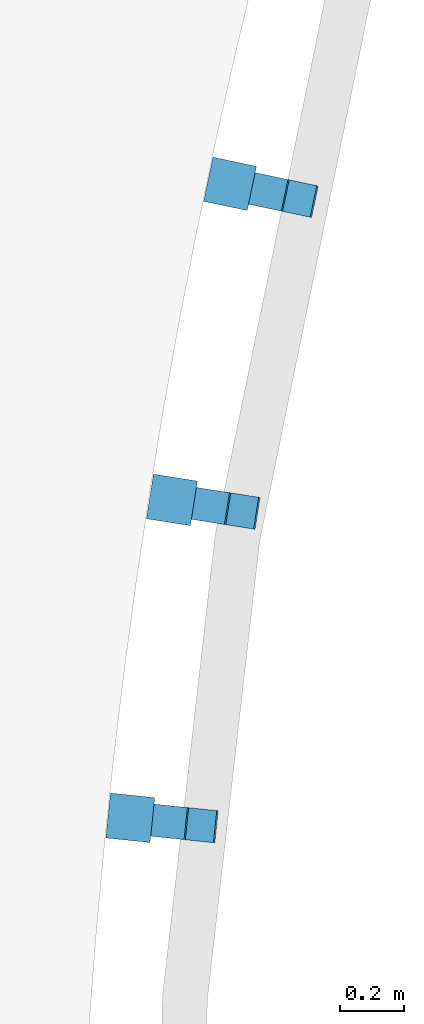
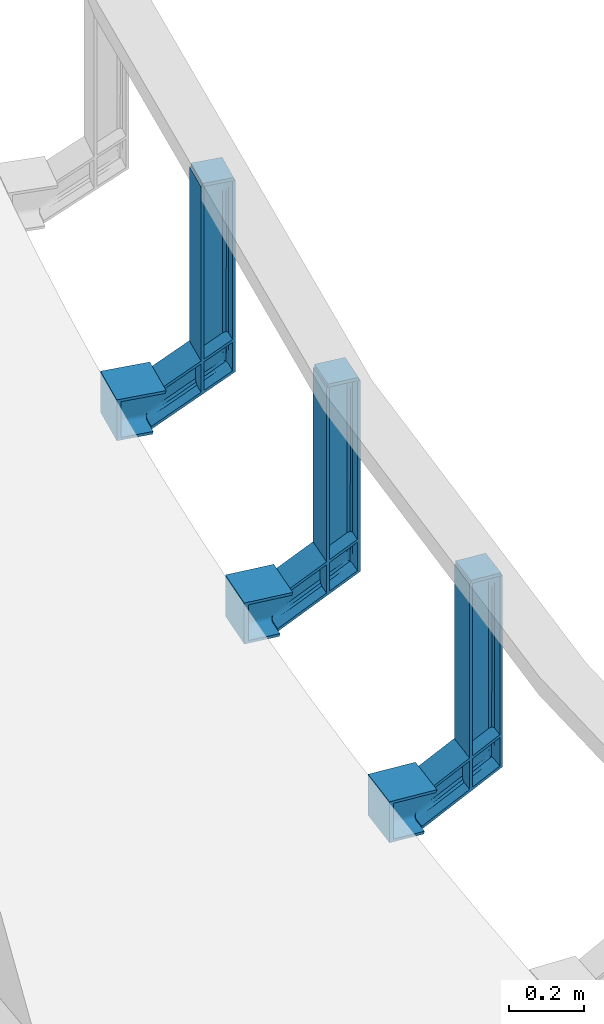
# One storey, part 43 of 68: 3 beams.
"""IFC2X3 building model written with IfcOpenShell, lengths in millimetres."""

from ifc_helpers import new_model, entity, si_unit, converted_unit, derived_unit, direction, frame, origin, place, context, subcontext, project, spatial, faceted_brep, source, transform, mapped, material, type_object, type_shapes, element, save


model = new_model("IFC2X3")

# Units and contexts
model_context = context("Model", 3, precision=0.01, world=origin(), true_north=direction((6.12303176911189e-17, 1.0)))
body_context = subcontext(model_context, "Body", "Model", "MODEL_VIEW")
ifc_project = project(units=[si_unit("LENGTHUNIT", "METRE", prefix="MILLI"), si_unit("AREAUNIT", "SQUARE_METRE", prefix="MILLI"), si_unit("VOLUMEUNIT", "CUBIC_METRE"), converted_unit("PLANEANGLEUNIT", "DEGREE", entity("IfcRatioMeasure", 0.0174532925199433), si_unit("PLANEANGLEUNIT", "RADIAN"), dimensions=[0, 0, 0, 0, 0, 0, 0]), si_unit("MASSUNIT", "GRAM", prefix="KILO"), derived_unit("MASSDENSITYUNIT", [(si_unit("MASSUNIT", "GRAM", prefix="KILO"), 1), (si_unit("LENGTHUNIT", "METRE"), -3)]), derived_unit("MOMENTOFINERTIAUNIT", [(si_unit("LENGTHUNIT", "METRE"), 4)]), si_unit("TIMEUNIT", "SECOND"), si_unit("FREQUENCYUNIT", "HERTZ"), si_unit("THERMODYNAMICTEMPERATUREUNIT", "DEGREE_CELSIUS"), derived_unit("THERMALTRANSMITTANCEUNIT", [(si_unit("MASSUNIT", "GRAM", prefix="KILO"), 1), (si_unit("THERMODYNAMICTEMPERATUREUNIT", "KELVIN"), -1), (si_unit("TIMEUNIT", "SECOND"), -3)]), derived_unit("VOLUMETRICFLOWRATEUNIT", [(si_unit("LENGTHUNIT", "METRE"), 3), (si_unit("TIMEUNIT", "SECOND"), -1)]), si_unit("ELECTRICCURRENTUNIT", "AMPERE"), si_unit("ELECTRICVOLTAGEUNIT", "VOLT"), si_unit("POWERUNIT", "WATT"), si_unit("FORCEUNIT", "NEWTON", prefix="KILO"), si_unit("ILLUMINANCEUNIT", "LUX"), si_unit("LUMINOUSFLUXUNIT", "LUMEN"), si_unit("LUMINOUSINTENSITYUNIT", "CANDELA"), derived_unit("USERDEFINED", [(si_unit("MASSUNIT", "GRAM", prefix="KILO"), -1), (si_unit("LENGTHUNIT", "METRE"), -2), (si_unit("TIMEUNIT", "SECOND"), 3), (si_unit("LUMINOUSFLUXUNIT", "LUMEN"), 1)]), derived_unit("LINEARVELOCITYUNIT", [(si_unit("LENGTHUNIT", "METRE"), 1), (si_unit("TIMEUNIT", "SECOND"), -1)]), si_unit("PRESSUREUNIT", "PASCAL"), derived_unit("USERDEFINED", [(si_unit("LENGTHUNIT", "METRE"), -2), (si_unit("MASSUNIT", "GRAM", prefix="KILO"), 1), (si_unit("TIMEUNIT", "SECOND"), -2)]), derived_unit("LINEARFORCEUNIT", [(si_unit("MASSUNIT", "GRAM", prefix="KILO"), 1), (si_unit("LENGTHUNIT", "METRE"), 1), (si_unit("TIMEUNIT", "SECOND"), -2), (si_unit("LENGTHUNIT", "METRE"), -1)]), derived_unit("PLANARFORCEUNIT", [(si_unit("MASSUNIT", "GRAM", prefix="KILO"), 1), (si_unit("LENGTHUNIT", "METRE"), 1), (si_unit("TIMEUNIT", "SECOND"), -2), (si_unit("LENGTHUNIT", "METRE"), -2)])], contexts=[model_context])

# Site, building, storey
site_placement = place(None, origin())
site = spatial("IfcSite", under=ifc_project, at=site_placement, Name="Theater aan de Parade", CompositionType="ELEMENT")
building_placement = place(site_placement, origin())
building = spatial("IfcBuilding", under=site, at=building_placement, Name="Theater aan de Parade", CompositionType="ELEMENT")
storey_placement = place(building_placement, frame((0.0, 0.0, 8750.0)))
storey = spatial("IfcBuildingStorey", under=building, at=storey_placement, Name="02 tweede verdieping", CompositionType="ELEMENT", Elevation=8750.0)

# Beams
ifc_material = material(Name="00_PBT_MAT_staal_S355")
beam_type = type_object("IfcBeamType", Name="28_PBT_SF_staal_baluster balkon:baluster HEA100", PredefinedType="BEAM", material=ifc_material)
shared_shape = source(origin(), body_context, "Body", "Brep", [
    faceted_brep([(50.0, 43.537813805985, 625.0), (50.0, 43.537813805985, 635.0), (50.0, -44.0, 635.0), (50.0, -44.0, 625.0), (-50.0, 43.537813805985, 625.0), (-50.0, -44.0, 625.0), (-50.0, -44.0, 635.0), (-50.0, 43.537813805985, 635.0)], [[[0, 1, 2, 3]], [[4, 5, 6, 7]], [[3, 5, 4, 0]], [[2, 6, 5, 3]], [[1, 7, 6, 2]], [[0, 4, 7, 1]]]),
    faceted_brep([(70.0, -278.0, -133.0), (70.0, -278.0, 0.0), (70.0, -290.0, 0.0), (70.0, -290.0, -133.0), (-70.0, -278.0, -133.0), (-70.0, -290.0, -133.0), (-70.0, -290.0, 0.0), (-70.0, -278.0, 0.0)], [[[0, 1, 2, 3]], [[4, 5, 6, 7]], [[3, 5, 4, 0]], [[2, 6, 5, 3]], [[1, 7, 6, 2]], [[0, 4, 7, 1]]]),
    faceted_brep([(70.0, -278.0, -133.0), (70.0, -278.0, -124.5), (14.7499999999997, -278.0, -124.5), (11.6441714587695, -278.0, -124.091109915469), (8.74999999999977, -278.0, -122.892304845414), (6.26471862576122, -278.0, -120.985281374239), (4.35769515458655, -278.0, -118.5), (3.15889008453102, -278.0, -115.60582854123), (2.74999999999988, -278.0, -112.5), (2.74999999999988, -278.0, -20.5000000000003), (3.15889008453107, -278.0, -17.39417145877), (4.35769515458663, -278.0, -14.5000000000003), (6.26471862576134, -278.0, -12.0147186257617), (8.74999999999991, -278.0, -10.107695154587), (11.6441714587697, -278.0, -8.90889008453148), (14.7499999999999, -278.0, -8.50000000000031), (70.0, -278.0, -8.50000000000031), (70.0, -278.0, 0.0), (-70.0, -278.0, 0.0), (-70.0, -278.0, -8.50000000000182), (-14.7499999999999, -278.0, -8.50000000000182), (-11.6441714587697, -278.0, -8.90889008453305), (-8.74999999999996, -278.0, -10.1076951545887), (-6.26471862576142, -278.0, -12.0147186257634), (-4.35769515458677, -278.0, -14.500000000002), (-3.15889008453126, -278.0, -17.3941714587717), (-2.75000000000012, -278.0, -20.5000000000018), (-2.75000000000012, -278.0, -112.500000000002), (-3.15889008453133, -278.0, -115.605828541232), (-4.3576951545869, -278.0, -118.500000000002), (-6.26471862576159, -278.0, -120.98528137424), (-8.75000000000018, -278.0, -122.892304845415), (-11.6441714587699, -278.0, -124.091109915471), (-14.7500000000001, -278.0, -124.500000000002), (-70.0, -278.0, -124.500000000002), (-70.0, -278.0, -133.0), (70.0, -154.37480362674, -8.50000000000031), (70.0, -151.923048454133, 0.0), (70.0, -190.285805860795, -133.0), (70.0, -187.834050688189, -124.5), (14.7499999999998, -214.852904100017, -8.50000000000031), (14.7499999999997, -154.37480362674, -8.50000000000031), (-70.0, -154.37480362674, -8.50000000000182), (-14.7500000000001, -154.37480362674, -8.50000000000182), (-14.7500000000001, -214.852905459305, -8.50000000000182), (6.43965673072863, -216.327371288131, -11.8433150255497), (2.74999999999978, -217.521904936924, -20.5000000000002), (12.079748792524, -154.461585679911, -8.8008650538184), (9.5433951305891, -154.717580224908, -9.68837358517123), (5.36802221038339, -155.678018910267, -13.0181223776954), (7.26812237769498, -155.129950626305, -11.1180222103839), (2.74999999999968, -157.83610504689, -20.5000000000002), (3.05086505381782, -157.065893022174, -17.8297487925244), (3.9383735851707, -156.334302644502, -15.2933951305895), (2.74999999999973, -184.372749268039, -112.5), (3.93837358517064, -185.874551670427, -117.706604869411), (3.05086505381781, -185.142961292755, -115.170251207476), (5.36802221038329, -186.530835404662, -119.981877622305), (7.26812237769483, -187.078903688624, -121.881977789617), (9.54339513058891, -187.491274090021, -123.311626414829), (12.0797487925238, -187.747268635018, -124.199134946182), (14.7499999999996, -187.834050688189, -124.5), (-14.7500000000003, -187.83405068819, -124.500000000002), (-70.0, -187.83405068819, -124.500000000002), (-70.0, -190.285805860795, -133.0), (-70.0, -151.923048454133, 0.0), (-9.54339513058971, -187.491274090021, -123.311626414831), (-12.0797487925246, -187.747268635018, -124.199134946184), (-7.2681223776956, -187.078903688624, -121.881977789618), (-5.36802221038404, -186.530835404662, -119.981877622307), (-3.93837358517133, -185.874551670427, -117.706604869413), (-3.05086505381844, -185.142961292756, -115.170251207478), (-2.75000000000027, -184.37274926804, -112.500000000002), (-2.75000000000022, -217.521899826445, -20.500000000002), (-2.75000000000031, -157.83610504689, -20.500000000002), (-6.43965718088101, -216.327373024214, -11.8433145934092), (-3.05086505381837, -157.065893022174, -17.8297487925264), (-3.93837358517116, -156.334302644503, -15.2933951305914), (-7.2681223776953, -155.129950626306, -11.1180222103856), (-5.36802221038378, -155.678018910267, -13.0181223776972), (-12.0797487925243, -154.461585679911, -8.80086505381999), (-9.54339513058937, -154.717580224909, -9.68837358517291)], [[[0, 1, 2, 3, 4, 5, 6, 7, 8, 9, 10, 11, 12, 13, 14, 15, 16, 17, 18, 19, 20, 21, 22, 23, 24, 25, 26, 27, 28, 29, 30, 31, 32, 33, 34, 35]], [[36, 37, 17, 16]], [[38, 39, 1, 0]], [[36, 16, 15, 40, 41]], [[19, 42, 43, 44, 20]], [[13, 45, 14]], [[12, 45, 13]], [[46, 45, 11]], [[47, 41, 40]], [[14, 40, 15]], [[45, 12, 11]], [[48, 47, 40]], [[49, 50, 45]], [[10, 9, 46]], [[40, 45, 48]], [[11, 10, 46]], [[46, 51, 52]], [[53, 46, 52]], [[46, 53, 45]], [[45, 53, 49]], [[45, 50, 48]], [[14, 45, 40]], [[54, 51, 46, 9, 8]], [[7, 6, 55]], [[8, 7, 56]], [[56, 54, 8]], [[57, 55, 6]], [[56, 7, 55]], [[6, 5, 57]], [[58, 5, 4]], [[59, 4, 3]], [[60, 3, 2]], [[59, 58, 4]], [[61, 60, 2]], [[59, 3, 60]], [[5, 58, 57]], [[39, 61, 2, 1]], [[62, 63, 34, 33]], [[38, 0, 35, 64]], [[64, 35, 34, 63]], [[42, 19, 18, 65]], [[32, 31, 66]], [[33, 32, 67]], [[67, 62, 33]], [[68, 66, 31]], [[67, 32, 66]], [[31, 30, 68]], [[69, 30, 29]], [[70, 29, 28]], [[71, 28, 27]], [[70, 69, 29]], [[72, 71, 27]], [[70, 28, 71]], [[30, 69, 68]], [[72, 27, 26, 73, 74]], [[25, 24, 73]], [[24, 23, 75]], [[75, 22, 21]], [[76, 74, 73]], [[75, 23, 22]], [[73, 77, 76]], [[78, 79, 75]], [[44, 80, 81]], [[73, 75, 77]], [[25, 73, 26]], [[21, 44, 75]], [[21, 20, 44]], [[43, 80, 44]], [[44, 81, 75]], [[78, 75, 81]], [[75, 79, 77]], [[73, 24, 75]], [[37, 65, 18, 17]], [[39, 38, 64, 63, 62, 67, 66, 68, 69, 70, 71, 72, 74, 76, 77, 79, 78, 81, 80, 43, 42, 65, 37, 36, 41, 47, 48, 50, 49, 53, 52, 51, 54, 56, 55, 57, 58, 59, 60, 61]]]),
    faceted_brep([(50.0, 48.0, 106.188021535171), (50.0, 48.0, 115.425625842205), (50.0, -151.923048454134, 0.0), (50.0, -155.119944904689, -11.0833333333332), (50.0, 48.0, 4.57437415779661), (50.0, 48.0, 13.8119784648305), (50.0, -187.08890941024, -121.916666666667), (50.0, -190.285805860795, -133.0), (14.4999999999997, -155.119944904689, -11.0833333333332), (14.4999999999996, -56.7511342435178, 45.7099259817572), (14.4999999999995, -4.37557443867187, 75.9489695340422), (14.4999999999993, 48.0, 106.188021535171), (-50.0, -155.119944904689, -11.0833333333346), (-50.0, 48.0, 106.188021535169), (-14.5000000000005, 48.0, 106.188021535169), (-14.5000000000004, -4.37556718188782, 75.9489737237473), (-14.5000000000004, -56.7511343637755, 45.7099259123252), (-14.5000000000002, -155.119944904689, -11.0833333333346), (9.9077988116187, -155.484968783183, -12.348836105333), (6.13940978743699, -85.6560198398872, 25.1051305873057), (12.1589161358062, -155.212086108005, -11.4027780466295), (2.49999999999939, -4.37556820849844, 62.0925666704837), (2.49999999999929, 48.0, 92.3316150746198), (2.80086505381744, 48.0, 95.4149555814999), (6.04197655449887, -10.2229142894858, 68.5459327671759), (2.49999999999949, -55.1641531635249, 32.769763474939), (2.73057663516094, -158.979764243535, -24.4649567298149), (2.49999999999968, -159.915289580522, -27.7083333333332), (2.49999999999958, -107.539721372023, 2.53071507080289), (7.83315720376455, -155.92810620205, -13.8851510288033), (11.8297487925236, 48.0, 105.840612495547), (4.52236465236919, -157.25113882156, -18.4719782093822), (3.41344560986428, -158.0801906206, -21.3462212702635), (5.11802221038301, 48.0, 100.970943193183), (7.01812237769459, 48.0, 103.164989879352), (3.68837358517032, 48.0, 98.3436845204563), (9.29339513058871, 48.0, 104.815805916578), (6.01471862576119, -156.524468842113, -15.9526830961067), (2.49999999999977, -182.293564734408, -105.291666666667), (2.49999999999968, -129.917998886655, -75.052619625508), (2.49999999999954, -56.7511354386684, -32.8097113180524), (2.49999999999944, -4.3755695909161, -2.57066427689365), (2.49999999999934, 48.0, 27.6683849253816), (6.01471862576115, -185.684385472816, -117.047316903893), (6.30956465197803, -103.743785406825, -70.0679088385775), (4.52236465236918, -184.957715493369, -114.528021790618), (7.83315720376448, -186.280748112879, -119.114848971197), (9.90779881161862, -186.723885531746, -120.651163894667), (14.4999999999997, -134.713341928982, -91.677618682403), (12.1589161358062, -186.996768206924, -121.597221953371), (14.4999999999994, -4.37556748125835, -16.4270695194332), (5.87838992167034, -26.389988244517, -24.9186641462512), (14.4999999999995, -69.5444547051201, -54.0523441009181), (5.11802221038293, 48.0, 19.0290568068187), (3.4134456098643, -184.128663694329, -111.653778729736), (2.80086505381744, 48.0, 24.5850444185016), (3.68837358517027, 48.0, 21.6563154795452), (14.4999999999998, -187.08890941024, -121.916666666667), (7.01812237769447, 48.0, 16.8350101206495), (9.29339513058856, 48.0, 15.1841940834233), (2.73057663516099, -183.229090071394, -108.535043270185), (11.8297487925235, 48.0, 14.1593875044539), (14.4999999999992, 48.0, 13.8119784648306), (-50.0, -187.088909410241, -121.916666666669), (-14.5000000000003, -187.088909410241, -121.916666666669), (-14.5000000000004, -134.713341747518, -91.6776185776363), (-14.5000000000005, -69.544456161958, -54.0523449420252), (-14.5000000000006, -4.37556766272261, -16.427069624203), (-14.5000000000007, 48.0, 13.8119784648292), (-50.0, 48.0, 13.8119784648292), (-50.0, -190.285805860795, -133.0), (-50.0, 48.0, 4.57437415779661), (-50.0, -151.923048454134, 0.0), (-50.0, 48.0, 115.425625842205), (-6.30956482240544, -103.743788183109, -70.0679106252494), (-4.52236465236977, -184.95771549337, -114.52802179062), (-3.41344560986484, -184.128663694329, -111.653778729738), (-2.50000000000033, -129.917995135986, -75.0526174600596), (-5.87838988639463, -26.3899865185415, -24.9186631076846), (-7.01812237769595, 48.0, 16.835010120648), (-9.29339513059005, 48.0, 15.1841940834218), (-6.01471862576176, -185.684385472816, -117.047316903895), (-7.8331572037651, -186.28074811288, -119.114848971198), (-11.829748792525, 48.0, 14.1593875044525), (-2.50000000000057, -4.37556959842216, -2.57066428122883), (-5.11802221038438, 48.0, 19.0290568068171), (-2.7305766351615, -183.229090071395, -108.535043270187), (-2.50000000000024, -182.293564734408, -105.291666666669), (-9.90779881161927, -186.723885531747, -120.651163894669), (-12.1589161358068, -186.996768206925, -121.597221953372), (-2.50000000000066, 48.0, 27.6683849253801), (-2.80086505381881, 48.0, 24.5850444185), (-2.50000000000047, -56.7511295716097, -32.809707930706), (-3.68837358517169, 48.0, 21.6563154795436), (-2.50000000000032, -159.915289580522, -27.708333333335), (-2.50000000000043, -107.539724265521, 2.53071340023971), (-2.50000000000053, -55.1641511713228, 32.7697646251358), (-2.50000000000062, -4.37556531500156, 62.0925683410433), (-2.50000000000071, 48.0, 92.3316150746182), (-2.73057663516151, -158.979764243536, -24.464956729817), (-11.8297487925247, 48.0, 105.840612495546), (-7.83315720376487, -155.92810620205, -13.885151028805), (-6.13940988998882, -85.6560228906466, 25.1051289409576), (-6.01471862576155, -156.524468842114, -15.9526830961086), (-6.04197656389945, -10.2229155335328, 68.5459320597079), (-7.0181223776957, 48.0, 103.16498987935), (-5.11802221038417, 48.0, 100.970943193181), (-9.90779881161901, -155.484968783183, -12.3488361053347), (-4.52236465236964, -157.25113882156, -18.4719782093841), (-3.68837358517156, 48.0, 98.3436845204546), (-2.80086505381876, 48.0, 95.4149555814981), (-12.1589161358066, -155.212086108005, -11.402778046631), (-3.41344560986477, -158.080190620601, -21.3462212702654), (-9.29339513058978, 48.0, 104.815805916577)], [[[0, 1, 2, 3]], [[4, 5, 6, 7]], [[0, 3, 8, 9, 10, 11]], [[12, 13, 14, 15, 16, 17]], [[18, 19, 20]], [[21, 22, 23]], [[24, 25, 21]], [[26, 27, 28]], [[19, 18, 29]], [[25, 19, 28]], [[9, 24, 10]], [[20, 9, 8]], [[19, 9, 20]], [[19, 24, 9]], [[25, 24, 19]], [[30, 11, 10]], [[28, 31, 32]], [[24, 33, 34]], [[33, 24, 35]], [[35, 24, 21]], [[36, 24, 34]], [[28, 32, 26]], [[31, 19, 37]], [[30, 10, 36]], [[31, 28, 19]], [[35, 21, 23]], [[36, 10, 24]], [[37, 19, 29]], [[27, 38, 39, 40, 41, 42, 22, 21, 25, 28]], [[43, 44, 45]], [[46, 47, 48]], [[48, 47, 49]], [[50, 51, 52]], [[53, 41, 51]], [[54, 45, 44]], [[55, 42, 41]], [[55, 41, 56]], [[49, 57, 48]], [[40, 39, 44]], [[58, 53, 51]], [[43, 46, 44]], [[51, 59, 58]], [[39, 54, 44]], [[54, 39, 60]], [[40, 44, 51]], [[61, 50, 62]], [[41, 40, 51]], [[44, 48, 52]], [[44, 46, 48]], [[56, 41, 53]], [[39, 38, 60]], [[59, 50, 61]], [[51, 44, 52]], [[51, 50, 59]], [[5, 62, 50, 52, 48, 57, 6]], [[63, 64, 65, 66, 67, 68, 69]], [[4, 7, 70, 71]], [[71, 70, 63, 69]], [[13, 12, 72, 73]], [[66, 65, 74]], [[75, 76, 74]], [[77, 74, 76]], [[78, 79, 80]], [[81, 74, 82]], [[83, 67, 80]], [[78, 84, 85]], [[86, 87, 77]], [[88, 82, 65]], [[88, 65, 89]], [[84, 90, 91]], [[66, 74, 78]], [[78, 80, 67]], [[92, 78, 74]], [[83, 68, 67]], [[84, 78, 92]], [[93, 84, 91]], [[93, 85, 84]], [[74, 65, 82]], [[78, 85, 79]], [[64, 89, 65]], [[74, 81, 75]], [[74, 77, 92]], [[86, 77, 76]], [[66, 78, 67]], [[94, 95, 96, 97, 98, 90, 84, 92, 77, 87]], [[94, 99, 95]], [[15, 14, 100]], [[101, 102, 103]], [[104, 105, 106]], [[107, 102, 101]], [[103, 102, 108]], [[16, 104, 102]], [[104, 96, 102]], [[102, 95, 108]], [[109, 110, 97]], [[107, 111, 102]], [[96, 104, 97]], [[109, 104, 106]], [[112, 95, 99]], [[16, 15, 104]], [[95, 112, 108]], [[113, 15, 100]], [[16, 102, 111]], [[97, 104, 109]], [[102, 96, 95]], [[113, 104, 15]], [[111, 17, 16]], [[105, 104, 113]], [[110, 98, 97]], [[1, 73, 72, 2]], [[5, 4, 71, 69, 68, 83, 80, 79, 85, 93, 91, 90, 98, 110, 109, 106, 105, 113, 100, 14, 13, 73, 1, 0, 11, 30, 36, 34, 33, 35, 23, 22, 42, 55, 56, 53, 58, 59, 61, 62]], [[3, 2, 72, 12, 17, 111, 107, 101, 103, 108, 112, 99, 94, 87, 86, 76, 75, 81, 82, 88, 89, 64, 63, 70, 7, 6, 57, 49, 47, 46, 43, 45, 54, 60, 38, 27, 26, 32, 31, 37, 29, 18, 20, 8]]]),
    faceted_brep([(50.0, -48.0, 625.0), (50.0, -40.0, 625.0), (14.4999999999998, -40.0, 625.0), (11.3941714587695, -39.5911099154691, 625.0), (8.4999999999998, -38.3923048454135, 625.0), (6.01471862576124, -36.4852813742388, 625.0), (4.10769515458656, -34.0, 625.0), (2.90889008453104, -31.1058285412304, 625.0), (2.49999999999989, -28.0, 625.0), (2.49999999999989, 28.0, 625.0), (2.90889008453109, 31.10582854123, 625.0), (4.10769515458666, 34.0, 625.0), (6.01471862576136, 36.4852813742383, 625.0), (8.49999999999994, 38.392304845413, 625.0), (11.3941714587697, 39.5911099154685, 625.0), (14.4999999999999, 40.0, 625.0), (50.0, 40.0, 625.0), (50.0, 48.0, 625.0), (-50.0, 48.0, 625.0), (-50.0, 40.0, 625.0), (-14.4999999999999, 40.0, 625.0), (-11.3941714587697, 39.5911099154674, 625.0), (-8.49999999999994, 38.3923048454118, 625.0), (-6.01471862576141, 36.4852813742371, 625.0), (-4.10769515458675, 34.0, 625.0), (-2.90889008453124, 31.1058285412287, 625.0), (-2.50000000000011, 28.0, 625.0), (-2.5000000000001, -28.0, 625.0), (-2.90889008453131, -31.1058285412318, 625.0), (-4.10769515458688, -34.0, 625.0), (-6.01471862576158, -36.4852813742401, 625.0), (-8.50000000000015, -38.3923048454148, 625.0), (-11.3941714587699, -39.5911099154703, 625.0), (-14.5000000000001, -40.0, 625.0), (-50.0, -40.0, 625.0), (-50.0, -48.0, 625.0), (50.0, 48.0, 165.0), (50.0, 40.0, -0.0444279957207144), (50.0, 48.0, 4.57437415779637), (50.0, -40.0, -46.2324495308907), (50.0, -48.0, -50.8512516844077), (14.4999999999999, 40.0, 564.521909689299), (14.4999999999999, 40.0, 468.738898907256), (14.4999999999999, 40.0, 390.608336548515), (14.4999999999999, 40.0, 312.477797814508), (14.4999999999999, 40.0, 234.347235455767), (14.4999999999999, 40.0, 156.216673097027), (14.4999999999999, 40.0, 60.4336623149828), (14.4999999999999, 40.0, -0.0444279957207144), (-50.0, 40.0, -0.0444279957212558), (-14.4999999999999, 40.0, -0.0444279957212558), (-14.4999999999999, 40.0, 60.4336769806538), (-14.4999999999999, 40.0, 156.21667900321), (-14.5, 40.0, 234.34724221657), (-14.5, 40.0, 312.477786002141), (-14.5, 40.0, 390.608329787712), (-14.5, 40.0, 468.738893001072), (-14.5, 40.0, 564.521895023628), (6.01471822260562, 36.4852809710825, 534.282851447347), (2.49999999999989, 28.0, 504.043808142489), (2.49999999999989, 28.0, 429.969876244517), (6.38111782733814, 36.8365011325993, 422.595542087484), (9.29339513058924, 38.8116264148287, -0.730535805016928), (5.87838991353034, 36.3467262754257, 83.7445110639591), (7.01812237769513, 37.3819777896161, -1.55594382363), (2.49999999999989, 28.0, 564.521899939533), (5.11802221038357, 35.4818776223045, -2.65296716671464), (11.8297487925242, 39.6991349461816, -0.21813251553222), (6.03175640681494, 36.5022850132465, 273.412504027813), (5.33717277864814, 35.7487158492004, 157.721305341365), (2.49999999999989, 28.0, 113.983560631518), (2.49999999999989, 28.0, 53.5054688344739), (2.49999999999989, 28.0, -6.97263122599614), (2.80086505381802, 30.6702512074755, -5.43096097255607), (6.45584074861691, 36.9045775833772, 351.543056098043), (3.68837358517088, 33.2066048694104, -3.96659650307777), (2.49999999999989, 28.0, 234.939752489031), (2.49999999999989, 28.0, 174.461652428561), (2.49999999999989, 28.0, 332.454810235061), (2.49999999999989, -28.0, 564.521918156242), (2.49999999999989, -28.0, 504.043820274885), (2.49999999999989, -28.0, 443.565722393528), (2.49999999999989, -28.0, 383.08762451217), (2.49999999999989, -28.0, 277.489656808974), (2.49999999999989, -28.0, 171.891689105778), (2.49999999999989, -28.0, 81.6519494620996), (2.49999999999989, -28.0, 21.1738515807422), (2.49999999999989, -28.0, -39.3042463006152), (14.4999999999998, -40.0, 564.521903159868), (14.4999999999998, -40.0, 457.191883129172), (6.01471890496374, -36.4852816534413, 534.282850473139), (14.4999999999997, -40.0, 14.24565628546), (5.87838987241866, -36.3467262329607, 51.4128968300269), (14.4999999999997, -40.0, 74.723753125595), (14.4999999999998, -40.0, 182.053764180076), (7.12980766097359, -37.469966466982, 128.3887480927), (14.4999999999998, -40.0, 373.287829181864), (14.4999999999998, -40.0, 289.383775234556), (5.68142979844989, -36.138354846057, 331.33579860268), (6.48410362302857, -36.9300282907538, 264.631830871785), (5.11802221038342, -35.481877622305, -43.6239103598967), (3.68837358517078, -33.2066048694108, -42.3102810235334), (14.4999999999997, -40.0, -46.2324495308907), (11.8297487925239, -39.6991349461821, -46.058745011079), (9.29339513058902, -38.8116264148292, -45.5463417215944), (7.01812237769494, -37.3819777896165, -44.7209337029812), (5.85986411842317, -36.3275477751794, 197.731198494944), (5.34384824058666, -35.7566026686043, 460.437179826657), (2.80086505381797, -30.6702512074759, -40.8459165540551), (6.59968170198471, -37.0324399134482, 396.193688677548), (-50.0, -40.0, -46.2324495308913), (-14.5000000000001, -40.0, 564.521911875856), (-14.5000000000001, -40.0, 457.191887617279), (-14.5000000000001, -40.0, 373.287826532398), (-14.5000000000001, -40.0, 289.383775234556), (-14.5000000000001, -40.0, 205.479723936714), (-14.5000000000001, -40.0, 121.575662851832), (-14.5000000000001, -40.0, 14.2456483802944), (-14.5000000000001, -40.0, -46.2324495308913), (-50.0, -48.0, -50.8512516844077), (-50.0, 48.0, 165.0), (-50.0, 48.0, 4.57437415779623), (-6.01471845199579, -36.4852812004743, 534.282853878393), (-2.5000000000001, -28.0, 504.043796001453), (-5.34384807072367, -35.7566024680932, 460.437182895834), (-2.5000000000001, -28.0, 564.521907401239), (-9.29339513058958, -38.8116264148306, -45.5463417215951), (-7.01812237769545, -37.3819777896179, -44.720933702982), (-6.37223200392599, -36.8283286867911, 262.824412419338), (-5.68142973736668, -36.1383547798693, 331.33579885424), (-6.59968165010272, -37.0324398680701, 396.193689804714), (-2.5000000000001, -28.0, 383.087610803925), (-11.8297487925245, -39.6991349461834, -46.0587450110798), (-5.11802221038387, -35.4818776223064, -43.6239103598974), (-6.18948395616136, -36.6565191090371, 51.4128959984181), (-3.68837358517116, -33.2066048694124, -42.3102810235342), (-2.5000000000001, -28.0, 21.1738462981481), (-2.80086505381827, -30.6702512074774, -40.8459165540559), (-5.35181665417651, -35.7659990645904, 125.002033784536), (-2.5000000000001, -28.0, 81.6519388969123), (-2.5000000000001, -28.0, -39.304246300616), (-2.5000000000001, -28.0, 277.489641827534), (-2.5000000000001, -28.0, 443.565703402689), (-2.5000000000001, -28.0, 171.891672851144), (-5.88018165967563, -36.3485766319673, 194.135386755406), (-2.50000000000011, 28.0, 564.521898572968), (-2.50000000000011, 28.0, 504.043797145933), (-2.50000000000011, 28.0, 429.969878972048), (-2.50000000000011, 28.0, 332.454826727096), (-2.50000000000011, 28.0, 234.939757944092), (-2.50000000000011, 28.0, 174.461656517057), (-2.50000000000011, 28.0, 113.983555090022), (-2.50000000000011, 28.0, 53.5054536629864), (-2.50000000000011, 28.0, -6.97263122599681), (-5.87838991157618, 36.3467262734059, 83.7445122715), (-9.29339513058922, 38.8116264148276, -0.730535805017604), (-5.33717271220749, 35.7487157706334, 157.721307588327), (-6.01471873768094, 36.4852814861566, 534.282853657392), (-6.38111797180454, 36.8365012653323, 422.595548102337), (-6.45584072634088, 36.9045775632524, 351.543059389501), (-3.688373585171, 33.2066048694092, -3.96659650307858), (-2.80086505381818, 30.6702512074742, -5.43096097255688), (-7.01812237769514, 37.3819777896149, -1.55594382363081), (-5.11802221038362, 35.4818776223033, -2.65296716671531), (-6.03175635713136, 36.5022849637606, 273.412506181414), (-11.8297487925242, 39.6991349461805, -0.218132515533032)], [[[0, 1, 2, 3, 4, 5, 6, 7, 8, 9, 10, 11, 12, 13, 14, 15, 16, 17, 18, 19, 20, 21, 22, 23, 24, 25, 26, 27, 28, 29, 30, 31, 32, 33, 34, 35]], [[36, 17, 16, 37, 38]], [[39, 1, 0, 40]], [[37, 16, 15, 41, 42, 43, 44, 45, 46, 47, 48]], [[19, 49, 50, 51, 52, 53, 54, 55, 56, 57, 20]], [[13, 12, 58]], [[11, 58, 12]], [[58, 42, 41]], [[59, 60, 61]], [[62, 63, 64]], [[65, 11, 10]], [[66, 64, 63]], [[67, 48, 47]], [[45, 68, 69]], [[69, 70, 63]], [[65, 59, 58]], [[46, 63, 47]], [[63, 46, 69]], [[67, 47, 62]], [[41, 15, 14]], [[71, 72, 73]], [[58, 41, 13]], [[44, 74, 68]], [[43, 74, 44]], [[58, 11, 65]], [[13, 41, 14]], [[75, 71, 73]], [[47, 63, 62]], [[71, 63, 70]], [[75, 66, 71]], [[59, 61, 58]], [[63, 71, 66]], [[10, 9, 65]], [[44, 68, 45]], [[69, 76, 77, 70]], [[69, 46, 45]], [[68, 78, 76]], [[74, 60, 78]], [[69, 68, 76]], [[74, 43, 61]], [[60, 74, 61]], [[68, 74, 78]], [[43, 42, 61]], [[58, 61, 42]], [[8, 79, 80, 81, 82, 83, 84, 85, 86, 87, 72, 71, 70, 77, 76, 78, 60, 59, 65, 9]], [[3, 88, 4]], [[88, 89, 90]], [[91, 92, 93]], [[4, 90, 5]], [[92, 86, 85]], [[94, 93, 95]], [[5, 90, 6]], [[96, 97, 98]], [[99, 98, 97]], [[92, 100, 101]], [[90, 80, 79]], [[6, 79, 7]], [[86, 92, 101]], [[91, 102, 103]], [[104, 91, 103]], [[90, 79, 6]], [[92, 105, 100]], [[104, 105, 91]], [[99, 94, 106]], [[90, 4, 88]], [[80, 90, 107]], [[3, 2, 88]], [[101, 108, 86]], [[108, 87, 86]], [[92, 91, 105]], [[79, 8, 7]], [[94, 95, 106]], [[85, 84, 95]], [[107, 90, 89]], [[85, 95, 92]], [[92, 95, 93]], [[106, 95, 84]], [[89, 96, 109]], [[109, 81, 107]], [[81, 109, 82]], [[96, 98, 109]], [[83, 82, 98]], [[84, 83, 106]], [[83, 98, 99]], [[94, 99, 97]], [[83, 99, 106]], [[82, 109, 98]], [[81, 80, 107]], [[89, 109, 107]], [[1, 39, 102, 91, 93, 94, 97, 96, 89, 88, 2]], [[110, 34, 33, 111, 112, 113, 114, 115, 116, 117, 118]], [[119, 40, 0, 35]], [[110, 119, 35, 34]], [[120, 121, 49, 19, 18]], [[122, 31, 30]], [[122, 111, 31]], [[122, 123, 124]], [[122, 125, 123]], [[126, 117, 127]], [[111, 33, 32]], [[31, 111, 32]], [[112, 122, 124]], [[128, 114, 129]], [[130, 131, 129]], [[132, 118, 117]], [[133, 127, 134]], [[29, 122, 30]], [[117, 116, 134]], [[135, 133, 134]], [[135, 136, 137]], [[122, 112, 111]], [[134, 136, 135]], [[134, 138, 139]], [[136, 134, 139]], [[29, 125, 122]], [[140, 137, 136]], [[132, 117, 126]], [[28, 27, 125]], [[134, 127, 117]], [[125, 29, 28]], [[138, 134, 116]], [[131, 141, 129]], [[124, 123, 142]], [[130, 112, 124]], [[113, 129, 114]], [[130, 129, 113]], [[143, 139, 138]], [[116, 115, 144]], [[144, 138, 116]], [[138, 144, 143]], [[128, 141, 144]], [[128, 115, 114]], [[141, 143, 144]], [[141, 128, 129]], [[115, 128, 144]], [[112, 130, 113]], [[130, 142, 131]], [[130, 124, 142]], [[27, 26, 145, 146, 147, 148, 149, 150, 151, 152, 153, 140, 136, 139, 143, 141, 131, 142, 123, 125]], [[22, 21, 57]], [[154, 51, 155]], [[154, 151, 156]], [[146, 145, 157]], [[23, 157, 24]], [[23, 22, 157]], [[158, 55, 159]], [[57, 56, 157]], [[152, 160, 161]], [[52, 154, 156]], [[21, 20, 57]], [[24, 145, 25]], [[25, 145, 26]], [[162, 163, 154]], [[158, 159, 147]], [[157, 145, 24]], [[161, 153, 152]], [[154, 155, 162]], [[152, 151, 154]], [[154, 163, 152]], [[148, 159, 164]], [[51, 50, 165]], [[51, 154, 52]], [[157, 22, 57]], [[152, 163, 160]], [[155, 51, 165]], [[157, 56, 158]], [[157, 158, 146]], [[156, 151, 150, 149]], [[164, 156, 149]], [[164, 54, 53]], [[53, 52, 156]], [[156, 164, 53]], [[54, 159, 55]], [[148, 164, 149]], [[164, 159, 54]], [[147, 159, 148]], [[158, 147, 146]], [[56, 55, 158]], [[120, 18, 17, 36, 38, 121]], [[39, 40, 119, 110, 118, 132, 126, 127, 133, 135, 137, 140, 153, 161, 160, 163, 162, 155, 165, 50, 49, 121, 38, 37, 48, 67, 62, 64, 66, 75, 73, 72, 87, 108, 101, 100, 105, 104, 103, 102]]]),
])
type_shapes(beam_type, [shared_shape])
for number, where, z_axis, x_axis, name in (
    (1, (53444.299910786, 34415.9170942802, -2040.0), (0.0, 0.0, 1.0), (-0.103850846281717, -0.994592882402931, 0.0), "28_PBT_SF_staal_baluster balkon:baluster HEA100"),
    (2, (53750.2392737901, 36359.4958405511, -2040.0), (0.0, 0.0, 1.0), (-0.206588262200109, -0.978427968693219, 0.0), "28_PBT_SF_staal_baluster balkon:baluster HEA100"),
    (3, (53571.9875075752, 35390.5041593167, -2040.0), (0.0, 0.0, 1.0), (-0.155434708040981, -0.987846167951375, 0.0), "28_PBT_SF_staal_baluster balkon:baluster HEA100"),
):
    element("IfcBeam", number, at=place(storey_placement, frame(where, z_axis=z_axis, x_axis=x_axis)), inside=storey, type_object=beam_type, material=ifc_material, Name=name, ObjectType="28_PBT_SF_staal_baluster balkon:baluster HEA100", context=body_context, shape_type="MappedRepresentation", body=[
        mapped(shared_shape, transform((0.0, 0.0, 0.0), scale=1.0)),
    ])

save(model, "model.ifc")
